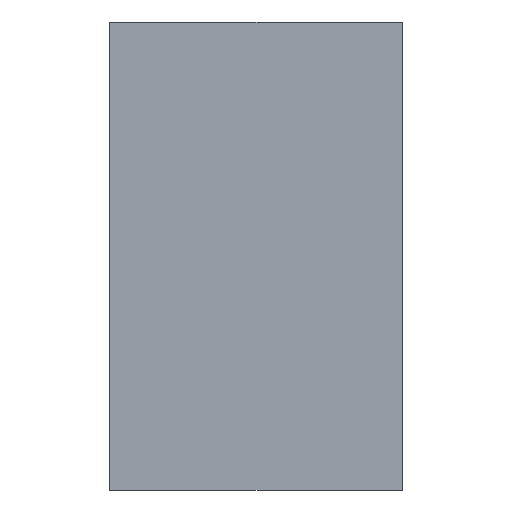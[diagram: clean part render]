
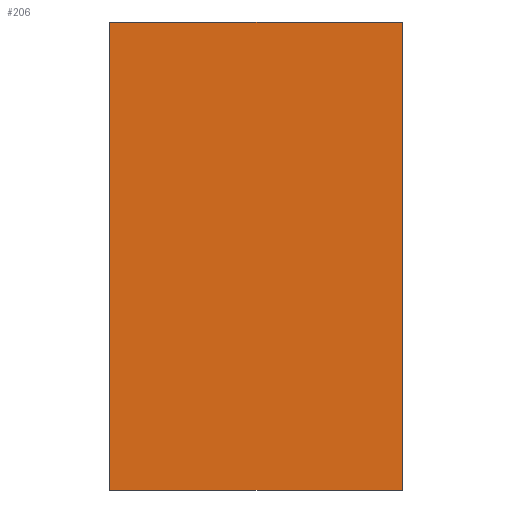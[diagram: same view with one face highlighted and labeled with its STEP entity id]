
A CAD part, left-side view. The second image highlights one B-rep face of the part: STEP entity #206.
In plain terms, the highlighted planar face has unit normal (-1, 0, 0).
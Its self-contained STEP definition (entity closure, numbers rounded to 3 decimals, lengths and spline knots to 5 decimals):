
#206=ADVANCED_FACE('0:153',(#356),#357,.F.);
#356=FACE_OUTER_BOUND('',#561,.T.);
#357=PLANE('',#562);
#561=EDGE_LOOP('',(#999,#1000,#1001,#1002));
#562=AXIS2_PLACEMENT_3D('',#1003,#1004,#1005);
#999=ORIENTED_EDGE('',*,*,#1549,.T.);
#1000=ORIENTED_EDGE('',*,*,#1607,.T.);
#1001=ORIENTED_EDGE('',*,*,#1608,.T.);
#1002=ORIENTED_EDGE('',*,*,#1609,.T.);
#1003=CARTESIAN_POINT('',(-0.059,0.0095,-0.07705));
#1004=DIRECTION('',(1.0,0.,0.));
#1005=DIRECTION('',(0.,-1.0,0.0));
#1549=EDGE_CURVE('0:449',#1875,#1873,#1876,.T.);
#1607=EDGE_CURVE('0:455',#1873,#1958,#1959,.T.);
#1608=EDGE_CURVE('0:458',#1958,#1960,#1961,.T.);
#1609=EDGE_CURVE('0:461',#1960,#1875,#1962,.T.);
#1873=VERTEX_POINT('',#2329);
#1875=VERTEX_POINT('',#2332);
#1876=LINE('',#2333,#2334);
#1958=VERTEX_POINT('',#2445);
#1959=LINE('',#2446,#2447);
#1960=VERTEX_POINT('',#2448);
#1961=LINE('',#2449,#2450);
#1962=LINE('',#2451,#2452);
#2329=CARTESIAN_POINT('',(-0.059,0.0155,0.04));
#2332=CARTESIAN_POINT('',(-0.059,-0.0095,0.04));
#2333=CARTESIAN_POINT('',(-0.059,0.0095,0.04));
#2334=VECTOR('',#2852,1.0);
#2445=CARTESIAN_POINT('',(-0.059,0.0155,0.));
#2446=CARTESIAN_POINT('',(-0.059,0.0155,-0.07705));
#2447=VECTOR('',#2972,1.0);
#2448=CARTESIAN_POINT('',(-0.059,-0.0095,0.0));
#2449=CARTESIAN_POINT('',(-0.059,0.0095,0.0));
#2450=VECTOR('',#2973,1.0);
#2451=CARTESIAN_POINT('',(-0.059,-0.0095,-0.07705));
#2452=VECTOR('',#2974,1.0);
#2852=DIRECTION('',(0.,1.0,0.));
#2972=DIRECTION('',(0.,0.,-1.0));
#2973=DIRECTION('',(0.,-1.0,0.));
#2974=DIRECTION('',(0.0,0.,1.0));
